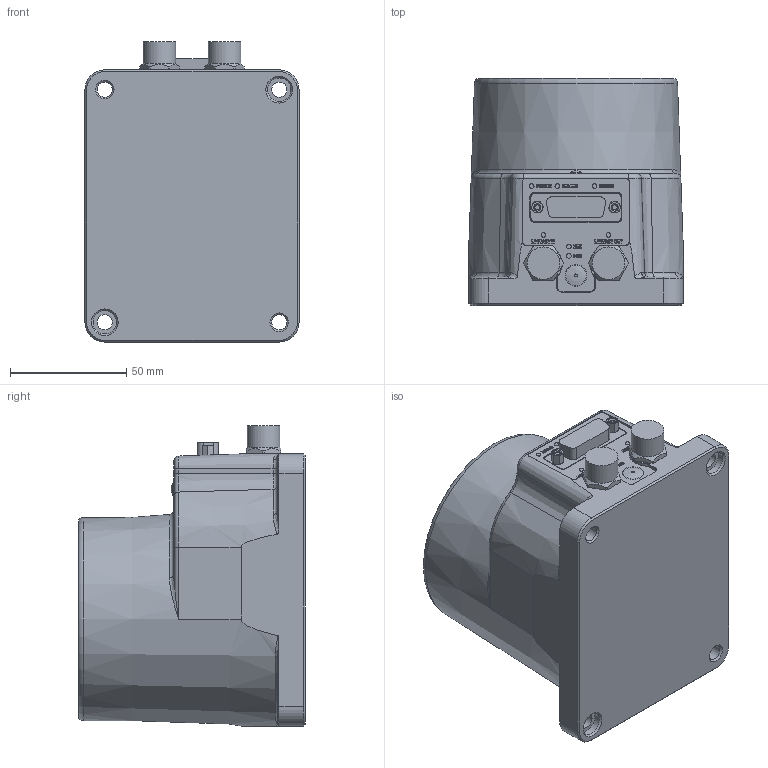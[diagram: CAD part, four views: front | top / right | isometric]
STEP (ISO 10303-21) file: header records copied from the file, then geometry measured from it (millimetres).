
FILE_DESCRIPTION(/* description */ (''),/* implementation_level */ '2;1');
FILE_NAME(/* name */ 'Axis 1 drive assembly_Shrinkwrap_1.stp',/* time_stamp */ '2023-09-11T10:15:19-04:00',/* author */ ('Jonathan'),/* organization */ (''),/* preprocessor_version */ 'ST-DEVELOPER v19.2',/* originating_system */ 'Autodesk Inventor 2024',/* authorisation */ '');
FILE_SCHEMA (('AUTOMOTIVE_DESIGN { 1 0 10303 214 3 1 1 }'));
Length unit declared in the file: inch
Products named in the file (1): Axis 1 drive assembly_Shrinkwrap_1
Bounding box: 92 x 97.5 x 129 mm (x, y, z)
Volume: 784755.3 mm3; surface area: 55088.2 mm2
Topology: 1 solids, 3 shells, 838 faces, 2176 edges, 1422 vertices
Faces by surface type: plane 505, bspline 162, cylinder 100, cone 49, torus 21, sphere 1
Full cylindrical faces by diameter (mm): 2 x7, 2.156 x2, 3.607 x2, 4.8 x2, 5.004 x1, 6.5 x4, 10 x2, 14 x4
Entity records: 27954 total; most frequent: CARTESIAN_POINT 7535, ORIENTED_EDGE 4348, DIRECTION 3416, EDGE_CURVE 2174, LINE 1460, VECTOR 1460, VERTEX_POINT 1422, AXIS2_PLACEMENT_3D 978
